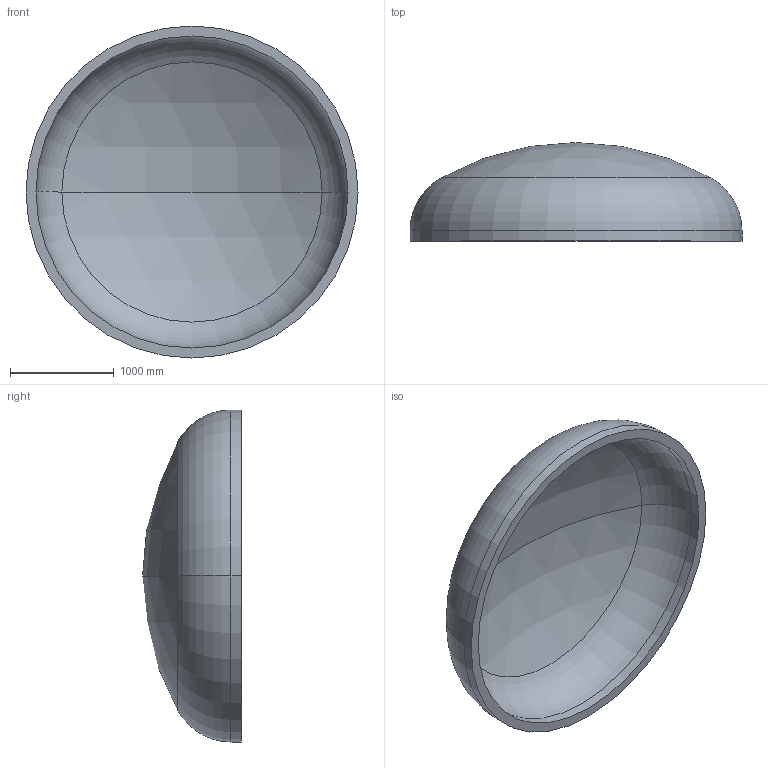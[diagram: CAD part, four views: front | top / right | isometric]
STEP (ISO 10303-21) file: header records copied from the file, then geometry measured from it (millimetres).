
FILE_DESCRIPTION (( 'STEP AP203' ), '1' );
FILE_NAME ('DIN 28013 Korbbogenform_-_Boden DIN 28013 - 3200 x 100 - I - s=96.step', '2016-07-01T18:57:07', ( '' ), ( '' ), 'SwSTEP 2.0', 'SolidWorks 2013', '' );
FILE_SCHEMA (( 'CONFIG_CONTROL_DESIGN' ));
Length unit declared in the file: millimetre
Products named in the file (1): DIN 28013 Korbbogenform_-_Boden DIN 28013 - 3200 x 100 - I - s=96
Bounding box: 3200 x 951.37 x 3200 mm (x, y, z)
Volume: 1120659830.8 mm3; surface area: 24302518.4 mm2
Topology: 1 solids, 1 shells, 13 faces, 24 edges, 14 vertices
Faces by surface type: torus 4, cylinder 4, sphere 4, plane 1
Entity records: 407 total; most frequent: DIRECTION 72, CARTESIAN_POINT 52, ORIENTED_EDGE 48, AXIS2_PLACEMENT_3D 34, EDGE_CURVE 24, CIRCLE 20, VERTEX_POINT 14, EDGE_LOOP 14
